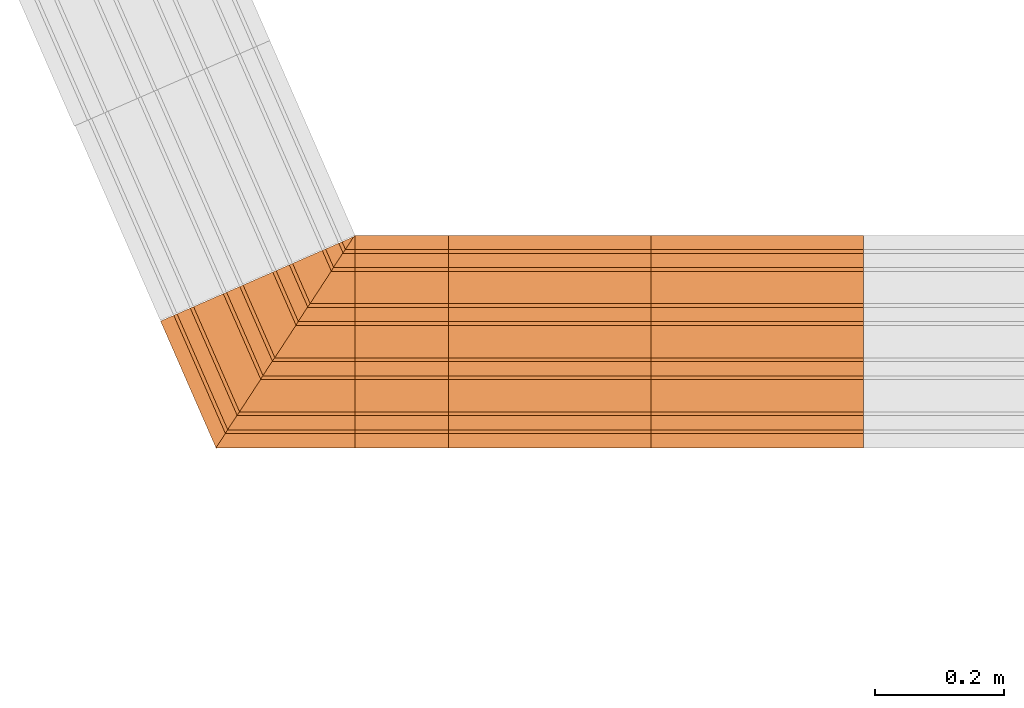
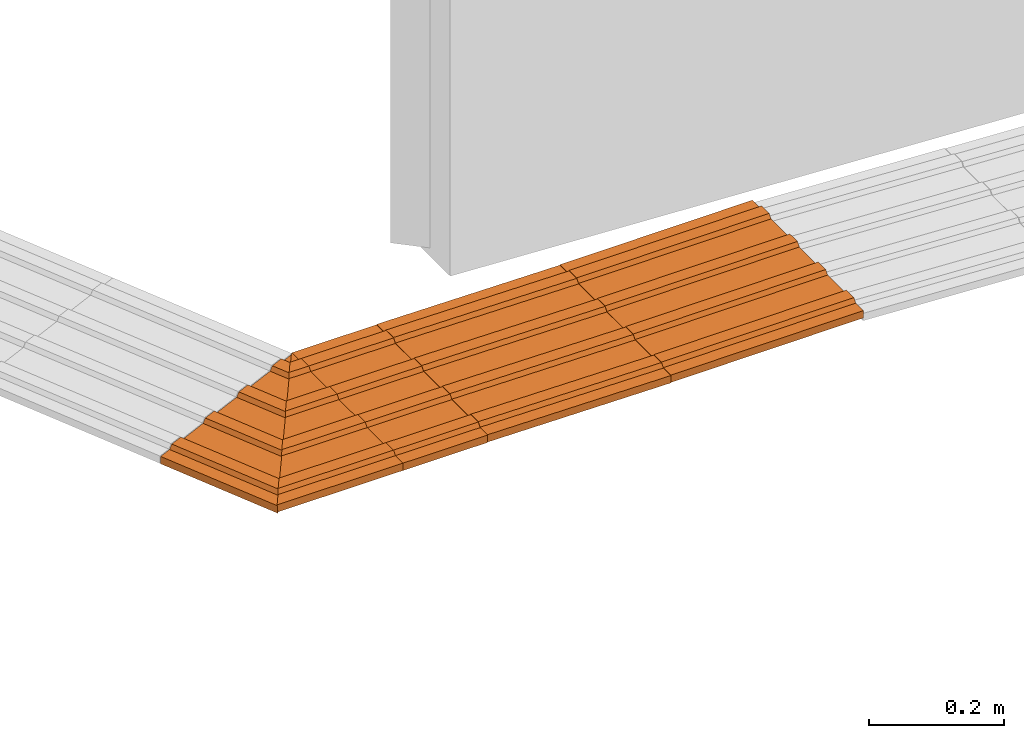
# One storey, part 215 of 237: 5 proxies.
"""IFC2X3 building model written with IfcOpenShell, lengths in millimetres."""

from ifc_helpers import new_model, entity, si_unit, converted_unit, derived_unit, money_unit, direction, frame, origin_with_axes, place, context, subcontext, project, spatial, open_shell, faceted_brep, surface_model, type_object, element, save


model = new_model("IFC2X3")

# Units and contexts
model_context = context("Model", 3, precision=0.01, world=origin_with_axes(), true_north=direction((0.0, 1.0)))
body_context = subcontext(model_context, "Body", "Model", "MODEL_VIEW")
ifc_project = project(units=[si_unit("LENGTHUNIT", "METRE", prefix="MILLI"), si_unit("AREAUNIT", "SQUARE_METRE"), si_unit("VOLUMEUNIT", "CUBIC_METRE"), converted_unit("PLANEANGLEUNIT", "DEGREE", entity("IfcPlaneAngleMeasure", 0.0174532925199), si_unit("PLANEANGLEUNIT", "RADIAN"), dimensions=[0, 0, 0, 0, 0, 0, 0]), money_unit("USD"), converted_unit("TIMEUNIT", "Year", entity("IfcTimeMeasure", 31556926.0), si_unit("TIMEUNIT", "SECOND"), dimensions=[0, 0, 1, 0, 0, 0, 0]), si_unit("MASSUNIT", "GRAM", prefix="KILO"), si_unit("THERMODYNAMICTEMPERATUREUNIT", "DEGREE_CELSIUS"), si_unit("LUMINOUSINTENSITYUNIT", "LUMEN"), si_unit("ENERGYUNIT", "JOULE", prefix="MEGA"), derived_unit("THERMALCONDUCTANCEUNIT", [(si_unit("POWERUNIT", "WATT"), 1), (si_unit("LENGTHUNIT", "METRE"), -1), (si_unit("THERMODYNAMICTEMPERATUREUNIT", "KELVIN"), -1)]), derived_unit("SPECIFICHEATCAPACITYUNIT", [(si_unit("ENERGYUNIT", "JOULE"), 1), (si_unit("MASSUNIT", "GRAM", prefix="KILO"), -1), (si_unit("THERMODYNAMICTEMPERATUREUNIT", "KELVIN"), -1)]), derived_unit("MASSDENSITYUNIT", [(si_unit("MASSUNIT", "GRAM", prefix="KILO"), 1), (si_unit("VOLUMEUNIT", "CUBIC_METRE"), -1)])], contexts=[model_context])

# Site, building, storey
site_placement = place(None, origin_with_axes())
site = spatial("IfcSite", under=ifc_project, at=site_placement, Name="Local", CompositionType="ELEMENT")
building_placement = place(site_placement, origin_with_axes())
building = spatial("IfcBuilding", under=site, at=building_placement, Name="Construção", CompositionType="ELEMENT")
storey_placement = place(building_placement, origin_with_axes())
storey = spatial("IfcBuildingStorey", under=building, at=storey_placement, Name="Pavimento Térreo", CompositionType="ELEMENT", Elevation=0.0)

# Proxies
building_element_proxy_type_1 = type_object("IfcBuildingElementProxyType", Name="Piso Direcional 27", PredefinedType="NOTDEFINED")
proxy_1_placement = place(storey_placement, frame((27436.5706281, 10834.0941893, -2383.67369199), z_axis=(0.0, 0.0, 1.0), x_axis=(-1.0, 0.0, 0.0)))
element("IfcBuildingElementProxy", 1, at=proxy_1_placement, inside=storey, type_object=building_element_proxy_type_1, Name="Objeto-0055", context=body_context, shape_type="SurfaceModel", body=[
    surface_model("IfcShellBasedSurfaceModel", [(0.0175776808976, -47.258225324, 4.0284821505), (330.014436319, -47.258225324, 2.58859008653), (330.043525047, -41.665004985, 9.25519329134), (0.0466664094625, -41.665004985, 10.6950853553)], [open_shell([[[0, 1, 2, 3]]])]),
    surface_model("IfcShellBasedSurfaceModel", [(329.956258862, -153.529411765, -10.7446163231), (329.956258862, 176.470588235, -10.7446163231), (330.014436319, 176.470588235, 2.58859008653), (330.014436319, 154.097706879, 2.58859008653), (330.043525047, 148.50448654, 9.25519329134), (330.043525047, 126.131605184, 9.25519329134), (330.014436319, 120.538384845, 2.58859008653), (330.014436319, 70.1994017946, 2.58859008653), (330.043525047, 64.6061814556, 9.25519329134), (330.043525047, 42.2333000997, 9.25519329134), (330.014436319, 36.6400797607, 2.58859008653), (330.014436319, -13.6989032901, 2.58859008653), (330.043525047, -19.2921236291, 9.25519329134), (330.043525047, -41.665004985, 9.25519329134), (330.014436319, -47.258225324, 2.58859008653), (330.014436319, -97.5972083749, 2.58859008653), (330.043525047, -103.190428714, 9.25519329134), (330.043525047, -125.56331007, 9.25519329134), (330.014436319, -131.156530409, 2.58859008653), (330.014436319, -153.529411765, 2.58859008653)], [open_shell([[[0, 1, 2, 3, 4, 5, 6, 7, 8, 9, 10, 11, 12, 13, 14, 15, 16, 17, 18, 19]]])]),
    surface_model("IfcShellBasedSurfaceModel", [(0.0466664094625, -19.2921236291, 10.6950853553), (330.043525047, -19.2921236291, 9.25519329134), (330.014436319, -13.6989032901, 2.58859008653), (0.0175776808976, -13.6989032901, 4.0284821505)], [open_shell([[[0, 1, 2, 3]]])]),
    surface_model("IfcShellBasedSurfaceModel", [(0.0466664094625, -103.190428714, 10.6950853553), (330.043525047, -103.190428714, 9.25519329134), (330.014436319, -97.5972083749, 2.58859008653), (0.0175776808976, -97.5972083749, 4.0284821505)], [open_shell([[[0, 1, 2, 3]]])]),
    surface_model("IfcShellBasedSurfaceModel", [(0.0466664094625, 64.6061814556, 10.6950853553), (330.043525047, 64.6061814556, 9.25519329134), (330.014436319, 70.1994017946, 2.58859008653), (0.0175776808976, 70.1994017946, 4.0284821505)], [open_shell([[[0, 1, 2, 3]]])]),
    surface_model("IfcShellBasedSurfaceModel", [(0.0175776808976, 36.6400797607, 4.0284821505), (330.014436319, 36.6400797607, 2.58859008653), (330.043525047, 42.2333000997, 9.25519329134), (0.0466664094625, 42.2333000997, 10.6950853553)], [open_shell([[[0, 1, 2, 3]]])]),
    surface_model("IfcShellBasedSurfaceModel", [(0.0175776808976, -131.156530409, 4.0284821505), (330.014436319, -131.156530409, 2.58859008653), (330.043525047, -125.56331007, 9.25519329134), (0.0466664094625, -125.56331007, 10.6950853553)], [open_shell([[[0, 1, 2, 3]]])]),
    surface_model("IfcShellBasedSurfaceModel", [(0.0175776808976, 176.470588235, 4.0284821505), (0.0175776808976, 154.097706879, 4.0284821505), (330.014436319, 154.097706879, 2.58859008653), (330.014436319, 176.470588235, 2.58859008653)], [open_shell([[[0, 1, 2, 3]]])]),
    surface_model("IfcShellBasedSurfaceModel", [(0.0175776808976, 120.538384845, 4.0284821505), (330.014436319, 120.538384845, 2.58859008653), (330.043525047, 126.131605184, 9.25519329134), (0.0466664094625, 126.131605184, 10.6950853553)], [open_shell([[[0, 1, 2, 3]]])]),
    surface_model("IfcShellBasedSurfaceModel", [(0.0466664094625, 148.50448654, 10.6950853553), (330.043525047, 148.50448654, 9.25519329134), (330.014436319, 154.097706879, 2.58859008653), (0.0175776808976, 154.097706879, 4.0284821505)], [open_shell([[[0, 1, 2, 3]]])]),
    surface_model("IfcShellBasedSurfaceModel", [(0.0175776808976, 36.6400797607, 4.0284821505), (0.0175776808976, -13.6989032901, 4.0284821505), (330.014436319, -13.6989032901, 2.58859008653), (330.014436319, 36.6400797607, 2.58859008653)], [open_shell([[[0, 1, 2, 3]]])]),
    surface_model("IfcShellBasedSurfaceModel", [(0.0175776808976, 120.538384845, 4.0284821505), (0.0175776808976, 70.1994017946, 4.0284821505), (330.014436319, 70.1994017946, 2.58859008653), (330.014436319, 120.538384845, 2.58859008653)], [open_shell([[[0, 1, 2, 3]]])]),
    surface_model("IfcShellBasedSurfaceModel", [(0.0466664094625, 148.50448654, 10.6950853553), (0.0466664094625, 126.131605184, 10.6950853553), (330.043525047, 126.131605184, 9.25519329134), (330.043525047, 148.50448654, 9.25519329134)], [open_shell([[[0, 1, 2, 3]]])]),
    surface_model("IfcShellBasedSurfaceModel", [(0.0175776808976, 120.538384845, 4.0284821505), (0.0466664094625, 126.131605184, 10.6950853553), (0.0466664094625, 148.50448654, 10.6950853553), (0.0175776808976, 154.097706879, 4.0284821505), (0.0175776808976, 176.470588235, 4.0284821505), (-0.0405997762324, 176.470588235, -9.30472425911), (-0.0405997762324, -153.529411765, -9.30472425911), (0.0175776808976, -153.529411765, 4.0284821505), (0.0175776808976, -131.156530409, 4.0284821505), (0.0466664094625, -125.56331007, 10.6950853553), (0.0466664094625, -103.190428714, 10.6950853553), (0.0175776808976, -97.5972083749, 4.0284821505), (0.0175776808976, -47.258225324, 4.0284821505), (0.0466664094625, -41.665004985, 10.6950853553), (0.0466664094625, -19.2921236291, 10.6950853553), (0.0175776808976, -13.6989032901, 4.0284821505), (0.0175776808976, 36.6400797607, 4.0284821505), (0.0466664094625, 42.2333000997, 10.6950853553), (0.0466664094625, 64.6061814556, 10.6950853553), (0.0175776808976, 70.1994017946, 4.0284821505)], [open_shell([[[0, 1, 2, 3, 4, 5, 6, 7, 8, 9, 10, 11, 12, 13, 14, 15, 16, 17, 18, 19]]])]),
    surface_model("IfcShellBasedSurfaceModel", [(330.043525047, -41.665004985, 9.25519329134), (330.043525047, -19.2921236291, 9.25519329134), (0.0466664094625, -19.2921236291, 10.6950853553), (0.0466664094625, -41.665004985, 10.6950853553)], [open_shell([[[0, 1, 2, 3]]])]),
    surface_model("IfcShellBasedSurfaceModel", [(0.0175776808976, -47.258225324, 4.0284821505), (0.0175776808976, -97.5972083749, 4.0284821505), (330.014436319, -97.5972083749, 2.58859008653), (330.014436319, -47.258225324, 2.58859008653)], [open_shell([[[0, 1, 2, 3]]])]),
    surface_model("IfcShellBasedSurfaceModel", [(330.043525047, 42.2333000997, 9.25519329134), (330.043525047, 64.6061814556, 9.25519329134), (0.0466664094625, 64.6061814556, 10.6950853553), (0.0466664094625, 42.2333000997, 10.6950853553)], [open_shell([[[0, 1, 2, 3]]])]),
    surface_model("IfcShellBasedSurfaceModel", [(330.043525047, -125.56331007, 9.25519329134), (330.043525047, -103.190428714, 9.25519329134), (0.0466664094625, -103.190428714, 10.6950853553), (0.0466664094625, -125.56331007, 10.6950853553)], [open_shell([[[0, 1, 2, 3]]])]),
    surface_model("IfcShellBasedSurfaceModel", [(329.956258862, 176.470588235, -10.7446163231), (-0.0405997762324, 176.470588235, -9.30472425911), (0.0175776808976, 176.470588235, 4.0284821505), (330.014436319, 176.470588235, 2.58859008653)], [open_shell([[[0, 1, 2, 3]]])]),
    surface_model("IfcShellBasedSurfaceModel", [(329.956258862, -153.529411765, -10.7446163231), (-0.0405997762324, -153.529411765, -9.30472425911), (-0.0405997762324, 176.470588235, -9.30472425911), (329.956258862, 176.470588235, -10.7446163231)], [open_shell([[[0, 1, 2, 3]]])]),
    surface_model("IfcShellBasedSurfaceModel", [(330.014436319, -153.529411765, 2.58859008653), (330.014436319, -131.156530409, 2.58859008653), (0.0175776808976, -131.156530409, 4.0284821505), (0.0175776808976, -153.529411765, 4.0284821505)], [open_shell([[[0, 1, 2, 3]]])]),
    surface_model("IfcShellBasedSurfaceModel", [(-0.0405997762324, -153.529411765, -9.30472425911), (329.956258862, -153.529411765, -10.7446163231), (330.014436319, -153.529411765, 2.58859008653), (0.0175776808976, -153.529411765, 4.0284821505)], [open_shell([[[0, 1, 2, 3]]])]),
])
proxy_2_placement = place(storey_placement, frame((26792.380811, 10834.0941893, -2383.87202889), z_axis=(0.0, 0.0, 1.0), x_axis=(-1.0, 0.0, 0.0)))
element("IfcBuildingElementProxy", 2, at=proxy_2_placement, inside=storey, type_object=building_element_proxy_type_1, Name="Objeto-0055", context=body_context, shape_type="SurfaceModel", body=[
    surface_model("IfcShellBasedSurfaceModel", [(0.0, -47.258225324, 4.02852049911), (145.20215102, -47.258225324, 4.02852049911), (145.20215102, -41.665004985, 10.6951871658), (0.0, -41.665004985, 10.6951871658)], [open_shell([[[0, 1, 2, 3]]])]),
    surface_model("IfcShellBasedSurfaceModel", [(145.20215102, -153.529411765, -9.30481283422), (145.20215102, 176.470588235, -9.30481283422), (145.20215102, 176.470588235, 4.02852049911), (145.20215102, 154.097706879, 4.02852049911), (145.20215102, 148.50448654, 10.6951871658), (145.20215102, 126.131605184, 10.6951871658), (145.20215102, 120.538384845, 4.02852049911), (145.20215102, 70.1994017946, 4.02852049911), (145.20215102, 64.6061814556, 10.6951871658), (145.20215102, 42.2333000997, 10.6951871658), (145.20215102, 36.6400797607, 4.02852049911), (145.20215102, -13.6989032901, 4.02852049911), (145.20215102, -19.2921236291, 10.6951871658), (145.20215102, -41.665004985, 10.6951871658), (145.20215102, -47.258225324, 4.02852049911), (145.20215102, -97.5972083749, 4.02852049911), (145.20215102, -103.190428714, 10.6951871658), (145.20215102, -125.56331007, 10.6951871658), (145.20215102, -131.156530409, 4.02852049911), (145.20215102, -153.529411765, 4.02852049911)], [open_shell([[[0, 1, 2, 3, 4, 5, 6, 7, 8, 9, 10, 11, 12, 13, 14, 15, 16, 17, 18, 19]]])]),
    surface_model("IfcShellBasedSurfaceModel", [(0.0, -19.2921236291, 10.6951871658), (145.20215102, -19.2921236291, 10.6951871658), (145.20215102, -13.6989032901, 4.02852049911), (0.0, -13.6989032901, 4.02852049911)], [open_shell([[[0, 1, 2, 3]]])]),
    surface_model("IfcShellBasedSurfaceModel", [(0.0, -103.190428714, 10.6951871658), (145.20215102, -103.190428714, 10.6951871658), (145.20215102, -97.5972083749, 4.02852049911), (0.0, -97.5972083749, 4.02852049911)], [open_shell([[[0, 1, 2, 3]]])]),
    surface_model("IfcShellBasedSurfaceModel", [(0.0, 64.6061814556, 10.6951871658), (145.20215102, 64.6061814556, 10.6951871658), (145.20215102, 70.1994017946, 4.02852049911), (0.0, 70.1994017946, 4.02852049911)], [open_shell([[[0, 1, 2, 3]]])]),
    surface_model("IfcShellBasedSurfaceModel", [(0.0, 36.6400797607, 4.02852049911), (145.20215102, 36.6400797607, 4.02852049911), (145.20215102, 42.2333000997, 10.6951871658), (0.0, 42.2333000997, 10.6951871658)], [open_shell([[[0, 1, 2, 3]]])]),
    surface_model("IfcShellBasedSurfaceModel", [(0.0, -131.156530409, 4.02852049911), (145.20215102, -131.156530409, 4.02852049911), (145.20215102, -125.56331007, 10.6951871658), (0.0, -125.56331007, 10.6951871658)], [open_shell([[[0, 1, 2, 3]]])]),
    surface_model("IfcShellBasedSurfaceModel", [(0.0, 176.470588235, 4.02852049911), (0.0, 154.097706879, 4.02852049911), (145.20215102, 154.097706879, 4.02852049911), (145.20215102, 176.470588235, 4.02852049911)], [open_shell([[[0, 1, 2, 3]]])]),
    surface_model("IfcShellBasedSurfaceModel", [(0.0, 120.538384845, 4.02852049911), (145.20215102, 120.538384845, 4.02852049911), (145.20215102, 126.131605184, 10.6951871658), (0.0, 126.131605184, 10.6951871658)], [open_shell([[[0, 1, 2, 3]]])]),
    surface_model("IfcShellBasedSurfaceModel", [(0.0, 148.50448654, 10.6951871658), (145.20215102, 148.50448654, 10.6951871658), (145.20215102, 154.097706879, 4.02852049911), (0.0, 154.097706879, 4.02852049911)], [open_shell([[[0, 1, 2, 3]]])]),
    surface_model("IfcShellBasedSurfaceModel", [(0.0, 36.6400797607, 4.02852049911), (0.0, -13.6989032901, 4.02852049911), (145.20215102, -13.6989032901, 4.02852049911), (145.20215102, 36.6400797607, 4.02852049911)], [open_shell([[[0, 1, 2, 3]]])]),
    surface_model("IfcShellBasedSurfaceModel", [(0.0, 120.538384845, 4.02852049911), (0.0, 70.1994017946, 4.02852049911), (145.20215102, 70.1994017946, 4.02852049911), (145.20215102, 120.538384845, 4.02852049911)], [open_shell([[[0, 1, 2, 3]]])]),
    surface_model("IfcShellBasedSurfaceModel", [(0.0, 148.50448654, 10.6951871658), (0.0, 126.131605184, 10.6951871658), (145.20215102, 126.131605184, 10.6951871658), (145.20215102, 148.50448654, 10.6951871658)], [open_shell([[[0, 1, 2, 3]]])]),
    surface_model("IfcShellBasedSurfaceModel", [(0.0, 120.538384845, 4.02852049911), (0.0, 126.131605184, 10.6951871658), (0.0, 148.50448654, 10.6951871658), (0.0, 154.097706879, 4.02852049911), (0.0, 176.470588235, 4.02852049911), (0.0, 176.470588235, -9.30481283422), (0.0, -153.529411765, -9.30481283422), (0.0, -153.529411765, 4.02852049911), (0.0, -131.156530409, 4.02852049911), (0.0, -125.56331007, 10.6951871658), (0.0, -103.190428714, 10.6951871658), (0.0, -97.5972083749, 4.02852049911), (0.0, -47.258225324, 4.02852049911), (0.0, -41.665004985, 10.6951871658), (0.0, -19.2921236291, 10.6951871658), (0.0, -13.6989032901, 4.02852049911), (0.0, 36.6400797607, 4.02852049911), (0.0, 42.2333000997, 10.6951871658), (0.0, 64.6061814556, 10.6951871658), (0.0, 70.1994017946, 4.02852049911)], [open_shell([[[0, 1, 2, 3, 4, 5, 6, 7, 8, 9, 10, 11, 12, 13, 14, 15, 16, 17, 18, 19]]])]),
    surface_model("IfcShellBasedSurfaceModel", [(145.20215102, -41.665004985, 10.6951871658), (145.20215102, -19.2921236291, 10.6951871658), (0.0, -19.2921236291, 10.6951871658), (0.0, -41.665004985, 10.6951871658)], [open_shell([[[0, 1, 2, 3]]])]),
    surface_model("IfcShellBasedSurfaceModel", [(0.0, -47.258225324, 4.02852049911), (0.0, -97.5972083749, 4.02852049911), (145.20215102, -97.5972083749, 4.02852049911), (145.20215102, -47.258225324, 4.02852049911)], [open_shell([[[0, 1, 2, 3]]])]),
    surface_model("IfcShellBasedSurfaceModel", [(145.20215102, 42.2333000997, 10.6951871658), (145.20215102, 64.6061814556, 10.6951871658), (0.0, 64.6061814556, 10.6951871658), (0.0, 42.2333000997, 10.6951871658)], [open_shell([[[0, 1, 2, 3]]])]),
    surface_model("IfcShellBasedSurfaceModel", [(145.20215102, -125.56331007, 10.6951871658), (145.20215102, -103.190428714, 10.6951871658), (0.0, -103.190428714, 10.6951871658), (0.0, -125.56331007, 10.6951871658)], [open_shell([[[0, 1, 2, 3]]])]),
    surface_model("IfcShellBasedSurfaceModel", [(145.20215102, 176.470588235, -9.30481283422), (0.0, 176.470588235, -9.30481283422), (0.0, 176.470588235, 4.02852049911), (145.20215102, 176.470588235, 4.02852049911)], [open_shell([[[0, 1, 2, 3]]])]),
    surface_model("IfcShellBasedSurfaceModel", [(145.20215102, -153.529411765, -9.30481283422), (0.0, -153.529411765, -9.30481283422), (0.0, 176.470588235, -9.30481283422), (145.20215102, 176.470588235, -9.30481283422)], [open_shell([[[0, 1, 2, 3]]])]),
    surface_model("IfcShellBasedSurfaceModel", [(145.20215102, -153.529411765, 4.02852049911), (145.20215102, -131.156530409, 4.02852049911), (0.0, -131.156530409, 4.02852049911), (0.0, -153.529411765, 4.02852049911)], [open_shell([[[0, 1, 2, 3]]])]),
    surface_model("IfcShellBasedSurfaceModel", [(0.0, -153.529411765, -9.30481283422), (145.20215102, -153.529411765, -9.30481283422), (145.20215102, -153.529411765, 4.02852049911), (0.0, -153.529411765, 4.02852049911)], [open_shell([[[0, 1, 2, 3]]])]),
])
proxy_3_placement = place(storey_placement, frame((27106.5851725, 10834.0941893, -2385.89677539), z_axis=(0.0, 0.0, 1.0), x_axis=(-1.0, 0.0, 0.0)))
element("IfcBuildingElementProxy", 3, at=proxy_3_placement, inside=storey, type_object=building_element_proxy_type_1, Name="Objeto-0055", context=body_context, shape_type="SurfaceModel", body=[
    surface_model("IfcShellBasedSurfaceModel", [(-0.0351550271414, -47.258225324, 4.02836710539), (314.256275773, -47.258225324, 6.77114686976), (314.19809887, -41.665004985, 13.4375596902), (-0.0933319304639, -41.665004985, 10.6947799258)], [open_shell([[[0, 1, 2, 3]]])]),
    surface_model("IfcShellBasedSurfaceModel", [(314.37262958, -153.529411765, -6.5616787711), (314.37262958, 176.470588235, -6.5616787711), (314.256275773, 176.470588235, 6.77114686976), (314.256275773, 154.097706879, 6.77114686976), (314.19809887, 148.50448654, 13.4375596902), (314.19809887, 126.131605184, 13.4375596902), (314.256275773, 120.538384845, 6.77114686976), (314.256275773, 70.1994017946, 6.77114686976), (314.19809887, 64.6061814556, 13.4375596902), (314.19809887, 42.2333000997, 13.4375596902), (314.256275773, 36.6400797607, 6.77114686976), (314.256275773, -13.6989032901, 6.77114686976), (314.19809887, -19.2921236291, 13.4375596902), (314.19809887, -41.665004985, 13.4375596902), (314.256275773, -47.258225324, 6.77114686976), (314.256275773, -97.5972083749, 6.77114686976), (314.19809887, -103.190428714, 13.4375596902), (314.19809887, -125.56331007, 13.4375596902), (314.256275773, -131.156530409, 6.77114686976), (314.256275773, -153.529411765, 6.77114686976)], [open_shell([[[0, 1, 2, 3, 4, 5, 6, 7, 8, 9, 10, 11, 12, 13, 14, 15, 16, 17, 18, 19]]])]),
    surface_model("IfcShellBasedSurfaceModel", [(-0.0933319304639, -19.2921236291, 10.6947799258), (314.19809887, -19.2921236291, 13.4375596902), (314.256275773, -13.6989032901, 6.77114686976), (-0.0351550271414, -13.6989032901, 4.02836710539)], [open_shell([[[0, 1, 2, 3]]])]),
    surface_model("IfcShellBasedSurfaceModel", [(-0.0933319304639, -103.190428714, 10.6947799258), (314.19809887, -103.190428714, 13.4375596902), (314.256275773, -97.5972083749, 6.77114686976), (-0.0351550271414, -97.5972083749, 4.02836710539)], [open_shell([[[0, 1, 2, 3]]])]),
    surface_model("IfcShellBasedSurfaceModel", [(-0.0933319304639, 64.6061814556, 10.6947799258), (314.19809887, 64.6061814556, 13.4375596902), (314.256275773, 70.1994017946, 6.77114686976), (-0.0351550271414, 70.1994017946, 4.02836710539)], [open_shell([[[0, 1, 2, 3]]])]),
    surface_model("IfcShellBasedSurfaceModel", [(-0.0351550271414, 36.6400797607, 4.02836710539), (314.256275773, 36.6400797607, 6.77114686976), (314.19809887, 42.2333000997, 13.4375596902), (-0.0933319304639, 42.2333000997, 10.6947799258)], [open_shell([[[0, 1, 2, 3]]])]),
    surface_model("IfcShellBasedSurfaceModel", [(-0.0351550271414, -131.156530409, 4.02836710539), (314.256275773, -131.156530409, 6.77114686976), (314.19809887, -125.56331007, 13.4375596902), (-0.0933319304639, -125.56331007, 10.6947799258)], [open_shell([[[0, 1, 2, 3]]])]),
    surface_model("IfcShellBasedSurfaceModel", [(-0.0351550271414, 176.470588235, 4.02836710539), (-0.0351550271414, 154.097706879, 4.02836710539), (314.256275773, 154.097706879, 6.77114686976), (314.256275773, 176.470588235, 6.77114686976)], [open_shell([[[0, 1, 2, 3]]])]),
    surface_model("IfcShellBasedSurfaceModel", [(-0.0351550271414, 120.538384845, 4.02836710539), (314.256275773, 120.538384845, 6.77114686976), (314.19809887, 126.131605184, 13.4375596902), (-0.0933319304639, 126.131605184, 10.6947799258)], [open_shell([[[0, 1, 2, 3]]])]),
    surface_model("IfcShellBasedSurfaceModel", [(-0.0933319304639, 148.50448654, 10.6947799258), (314.19809887, 148.50448654, 13.4375596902), (314.256275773, 154.097706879, 6.77114686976), (-0.0351550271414, 154.097706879, 4.02836710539)], [open_shell([[[0, 1, 2, 3]]])]),
    surface_model("IfcShellBasedSurfaceModel", [(-0.0351550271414, 36.6400797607, 4.02836710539), (-0.0351550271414, -13.6989032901, 4.02836710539), (314.256275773, -13.6989032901, 6.77114686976), (314.256275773, 36.6400797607, 6.77114686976)], [open_shell([[[0, 1, 2, 3]]])]),
    surface_model("IfcShellBasedSurfaceModel", [(-0.0351550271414, 120.538384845, 4.02836710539), (-0.0351550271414, 70.1994017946, 4.02836710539), (314.256275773, 70.1994017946, 6.77114686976), (314.256275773, 120.538384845, 6.77114686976)], [open_shell([[[0, 1, 2, 3]]])]),
    surface_model("IfcShellBasedSurfaceModel", [(-0.0933319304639, 148.50448654, 10.6947799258), (-0.0933319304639, 126.131605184, 10.6947799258), (314.19809887, 126.131605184, 13.4375596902), (314.19809887, 148.50448654, 13.4375596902)], [open_shell([[[0, 1, 2, 3]]])]),
    surface_model("IfcShellBasedSurfaceModel", [(-0.0351550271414, 120.538384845, 4.02836710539), (-0.0933319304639, 126.131605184, 10.6947799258), (-0.0933319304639, 148.50448654, 10.6947799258), (-0.0351550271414, 154.097706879, 4.02836710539), (-0.0351550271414, 176.470588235, 4.02836710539), (0.0811987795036, 176.470588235, -9.30445853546), (0.0811987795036, -153.529411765, -9.30445853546), (-0.0351550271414, -153.529411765, 4.02836710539), (-0.0351550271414, -131.156530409, 4.02836710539), (-0.0933319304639, -125.56331007, 10.6947799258), (-0.0933319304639, -103.190428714, 10.6947799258), (-0.0351550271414, -97.5972083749, 4.02836710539), (-0.0351550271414, -47.258225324, 4.02836710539), (-0.0933319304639, -41.665004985, 10.6947799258), (-0.0933319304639, -19.2921236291, 10.6947799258), (-0.0351550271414, -13.6989032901, 4.02836710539), (-0.0351550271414, 36.6400797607, 4.02836710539), (-0.0933319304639, 42.2333000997, 10.6947799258), (-0.0933319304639, 64.6061814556, 10.6947799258), (-0.0351550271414, 70.1994017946, 4.02836710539)], [open_shell([[[0, 1, 2, 3, 4, 5, 6, 7, 8, 9, 10, 11, 12, 13, 14, 15, 16, 17, 18, 19]]])]),
    surface_model("IfcShellBasedSurfaceModel", [(314.19809887, -41.665004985, 13.4375596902), (314.19809887, -19.2921236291, 13.4375596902), (-0.0933319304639, -19.2921236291, 10.6947799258), (-0.0933319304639, -41.665004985, 10.6947799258)], [open_shell([[[0, 1, 2, 3]]])]),
    surface_model("IfcShellBasedSurfaceModel", [(-0.0351550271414, -47.258225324, 4.02836710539), (-0.0351550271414, -97.5972083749, 4.02836710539), (314.256275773, -97.5972083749, 6.77114686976), (314.256275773, -47.258225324, 6.77114686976)], [open_shell([[[0, 1, 2, 3]]])]),
    surface_model("IfcShellBasedSurfaceModel", [(314.19809887, 42.2333000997, 13.4375596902), (314.19809887, 64.6061814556, 13.4375596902), (-0.0933319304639, 64.6061814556, 10.6947799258), (-0.0933319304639, 42.2333000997, 10.6947799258)], [open_shell([[[0, 1, 2, 3]]])]),
    surface_model("IfcShellBasedSurfaceModel", [(314.19809887, -125.56331007, 13.4375596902), (314.19809887, -103.190428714, 13.4375596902), (-0.0933319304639, -103.190428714, 10.6947799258), (-0.0933319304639, -125.56331007, 10.6947799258)], [open_shell([[[0, 1, 2, 3]]])]),
    surface_model("IfcShellBasedSurfaceModel", [(314.37262958, 176.470588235, -6.5616787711), (0.0811987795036, 176.470588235, -9.30445853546), (-0.0351550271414, 176.470588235, 4.02836710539), (314.256275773, 176.470588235, 6.77114686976)], [open_shell([[[0, 1, 2, 3]]])]),
    surface_model("IfcShellBasedSurfaceModel", [(314.37262958, -153.529411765, -6.5616787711), (0.0811987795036, -153.529411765, -9.30445853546), (0.0811987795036, 176.470588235, -9.30445853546), (314.37262958, 176.470588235, -6.5616787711)], [open_shell([[[0, 1, 2, 3]]])]),
    surface_model("IfcShellBasedSurfaceModel", [(314.256275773, -153.529411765, 6.77114686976), (314.256275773, -131.156530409, 6.77114686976), (-0.0351550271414, -131.156530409, 4.02836710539), (-0.0351550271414, -153.529411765, 4.02836710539)], [open_shell([[[0, 1, 2, 3]]])]),
    surface_model("IfcShellBasedSurfaceModel", [(0.0811987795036, -153.529411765, -9.30445853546), (314.37262958, -153.529411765, -6.5616787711), (314.256275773, -153.529411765, 6.77114686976), (-0.0351550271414, -153.529411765, 4.02836710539)], [open_shell([[[0, 1, 2, 3]]])]),
])
building_element_proxy_type_2 = type_object("IfcBuildingElementProxyType", Name="FALTA", PredefinedType="NOTDEFINED")
proxy_4_placement = place(storey_placement, frame((26639.0407654, 10622.7261029, -2385.16801843), z_axis=(-0.0197448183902, 0.0448739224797, 0.998797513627), x_axis=(-0.400104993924, 0.915157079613, -0.0490256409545)))
element("IfcBuildingElementProxy", 4, at=proxy_4_placement, inside=storey, type_object=building_element_proxy_type_2, Name="Objeto-0055", context=body_context, shape_type="Brep", body=[
    faceted_brep([(242.182712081, -19.2921236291, 22.552681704), (256.818926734, -41.665004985, 23.2685120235), (329.083567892, -41.665004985, 26.8028426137), (329.083567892, -19.2921236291, 26.8028426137), (293.409463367, -97.5972083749, 18.383452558), (260.477980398, -47.258225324, 16.772834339), (238.523658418, -13.6989032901, 15.6990888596), (205.592175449, 36.6400797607, 14.0884706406), (201.933121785, 42.2333000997, 20.5841483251), (187.296907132, 64.6061814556, 19.8683180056), (183.637853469, 70.1994017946, 13.0147251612), (150.706370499, 120.538384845, 11.4041069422), (147.047316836, 126.131605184, 17.8997846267), (132.411102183, 148.50448654, 17.1839543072), (128.75204852, 154.097706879, 10.3303614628), (114.115833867, 176.470588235, 9.61453114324), (114.115833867, 176.470588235, -3.7347393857), (330.0, -153.529411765, 6.82375782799), (330.0, -153.529411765, 8.06502628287), (329.409233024, -152.626366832, 20.1441350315), (315.363785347, -131.156530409, 19.4571980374), (311.704731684, -125.56331007, 25.9528757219), (297.068517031, -103.190428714, 25.2370454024), (329.409233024, -47.258225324, 20.1441350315), (329.409233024, -131.156530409, 20.1441350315), (330.060563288, -153.529411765, 6.82671986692), (330.060563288, 176.470588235, 6.82671986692), (329.409233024, 176.470588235, 20.1441350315), (329.409233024, 154.097706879, 20.1441350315), (329.083567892, 148.50448654, 26.8028426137), (329.083567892, 126.131605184, 26.8028426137), (329.409233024, 120.538384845, 20.1441350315), (329.409233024, 70.1994017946, 20.1441350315), (329.083567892, 64.6061814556, 26.8028426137), (329.083567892, 42.2333000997, 26.8028426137), (329.409233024, 36.6400797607, 20.1441350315), (329.409233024, -13.6989032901, 20.1441350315), (329.409233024, -97.5972083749, 20.1441350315), (329.083567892, -103.190428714, 26.8028426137), (329.083567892, -125.56331007, 26.8028426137)], [[[0, 1, 2, 3]], [[4, 5, 1, 0, 6, 7, 8, 9, 10, 11, 12, 13, 14, 15, 16, 17, 18, 19, 20, 21, 22]], [[1, 5, 23, 2]], [[24, 19, 18, 25, 26, 27, 28, 29, 30, 31, 32, 33, 34, 35, 36, 3, 2, 23, 37, 38, 39]], [[6, 0, 3, 36]], [[5, 4, 37, 23]], [[7, 6, 36, 35]], [[8, 7, 35, 34]], [[9, 8, 34, 33]], [[10, 9, 33, 32]], [[11, 10, 32, 31]], [[12, 11, 31, 30]], [[13, 12, 30, 29]], [[14, 13, 29, 28]], [[15, 14, 28, 27]], [[16, 15, 27, 26]], [[17, 16, 26, 25]], [[17, 25, 18]], [[24, 20, 19]], [[20, 24, 39, 21]], [[21, 39, 38, 22]], [[37, 4, 22, 38]]]),
])
proxy_5_placement = place(storey_placement, frame((26647.1786599, 10834.0941893, -2383.87202889), z_axis=(-0.0488497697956, 0.0, 0.998806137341), x_axis=(-0.998806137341, 0.0, -0.0488497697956)))
element("IfcBuildingElementProxy", 5, at=proxy_5_placement, inside=storey, type_object=building_element_proxy_type_2, Name="Objeto-0055", context=body_context, shape_type="Brep", body=[
    faceted_brep([(15.0291210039, -131.156530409, 4.76838239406), (-0.196792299, -131.156530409, 4.02371099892), (-0.196792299, -153.529411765, 4.02371099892), (0.454537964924, -153.529411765, 4.0555663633), (-0.522457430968, -125.56331007, 10.6824185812), (18.6727667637, -125.56331007, 11.6212216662), (-0.522457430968, -103.190428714, 10.6824185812), (-0.196792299, -97.5972083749, 4.02371099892), (-0.196792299, -47.258225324, 4.02371099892), (-0.522457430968, -41.665004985, 10.6824185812), (-0.522457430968, -19.2921236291, 10.6824185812), (-0.196792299, -13.6989032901, 4.02371099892), (-0.196792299, 36.6400797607, 4.02371099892), (-0.522457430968, 42.2333000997, 10.6824185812), (-0.522457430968, 64.6061814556, 10.6824185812), (-0.196792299, 70.1994017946, 4.02371099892), (-0.196792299, 120.538384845, 4.02371099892), (-0.522457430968, 126.131605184, 10.6824185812), (-0.522457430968, 148.50448654, 10.6824185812), (-0.196792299, 154.097706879, 4.02371099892), (-0.196792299, 176.470588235, 4.02371099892), (0.454537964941, 176.470588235, -9.29370416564), (0.454537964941, -153.529411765, -9.29370416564), (215.42963779, 176.470588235, 1.22033228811), (215.42963779, 176.470588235, 14.5696028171), (200.855054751, 154.097706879, 13.8567867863), (197.211408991, 148.50448654, 20.3532180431), (182.636825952, 126.131605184, 19.6404020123), (178.993180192, 120.538384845, 12.7875627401), (146.200368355, 70.1994017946, 11.1837266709), (142.556722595, 64.6061814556, 17.6801579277), (127.982139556, 42.2333000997, 16.9673418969), (124.338493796, 36.6400797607, 10.1145026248), (91.5456819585, -13.6989032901, 8.51066655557), (87.9020361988, -19.2921236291, 15.0070978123), (73.3274531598, -41.665004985, 14.2942817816), (69.6838074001, -47.258225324, 7.44144250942), (36.8909955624, -97.5972083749, 5.83760644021), (33.2473498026, -103.190428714, 12.334037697)], [[[0, 1, 2, 3]], [[4, 1, 0, 5]], [[1, 4, 6, 7, 8, 9, 10, 11, 12, 13, 14, 15, 16, 17, 18, 19, 20, 21, 22, 2]], [[2, 22, 3]], [[3, 22, 23, 24, 25, 26, 27, 28, 29, 30, 31, 32, 33, 34, 35, 36, 37, 38, 5, 0]], [[6, 4, 5, 38]], [[7, 6, 38, 37]], [[7, 37, 36, 8]], [[9, 8, 36, 35]], [[10, 9, 35, 34]], [[11, 10, 34, 33]], [[11, 33, 32, 12]], [[13, 12, 32, 31]], [[14, 13, 31, 30]], [[15, 14, 30, 29]], [[15, 29, 28, 16]], [[17, 16, 28, 27]], [[18, 17, 27, 26]], [[19, 18, 26, 25]], [[20, 19, 25, 24]], [[21, 20, 24, 23]], [[22, 21, 23]]]),
])

save(model, "model.ifc")
